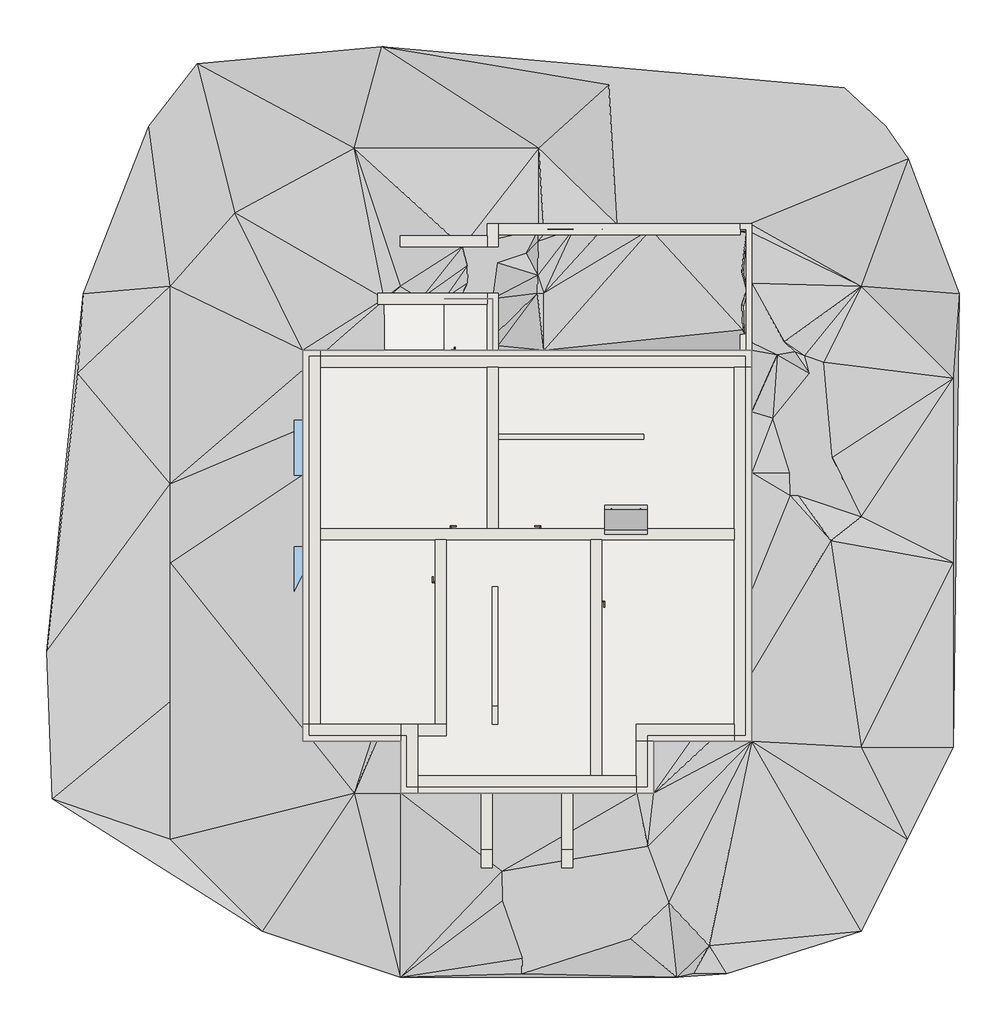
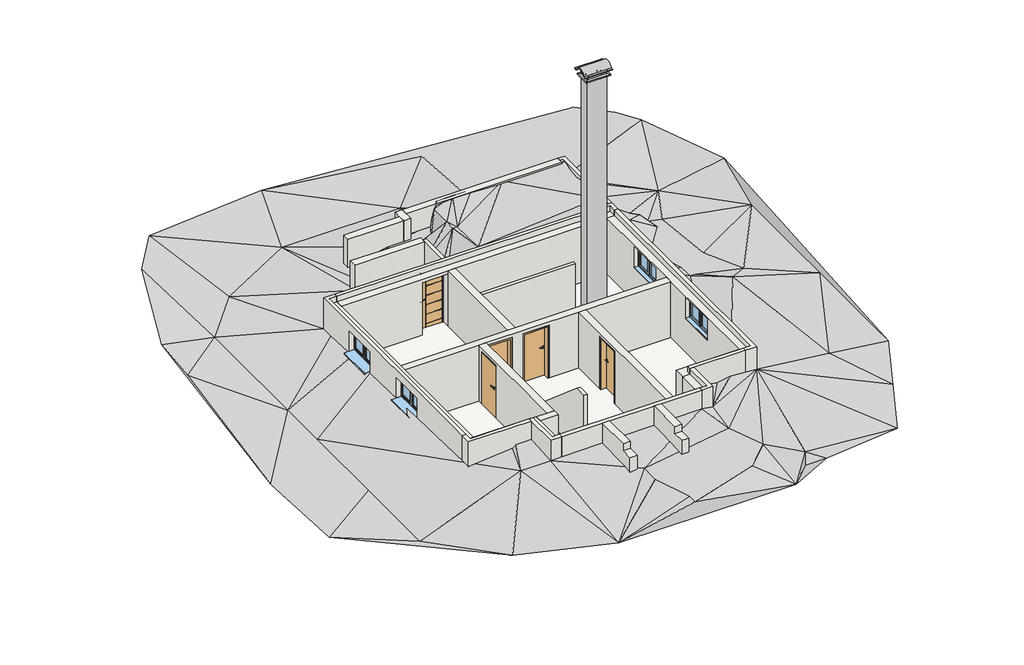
# Not in any storey, incomplete: 23 walls, 8 footings, 5 doors, 4 proxies, 4 slabs, 4 windows.
"""IFC4 building model written with IfcOpenShell, lengths in millimetres."""

from ifc_helpers import new_model, si_unit, frame, origin, place, context, project, spatial, polyline, outline, extrude, faceted_brep, triangles, transform, mapped, element, save
from components import proxy_360_x_650_x_6000_d_140_bfd82147, door_1b2f5746, door_21564633, ml_885_x_1885_5f7d4f0f, fe_2_tlg_konfigurierbar_1260_x_760_5a7c37b6

model = new_model("IFC4")

# Units and contexts
model_context = context("Model", 3, world=origin())
ifc_project = project(units=[si_unit("LENGTHUNIT", "METRE", prefix="MILLI")], contexts=[model_context])

# Site, building
site = spatial("IfcSite", under=ifc_project)
building = spatial("IfcBuilding", under=site)

# Proxies
placement = place(None, origin())
element("IfcBuildingElementProxy", 1, Name="Building Element Proxy", at=placement, inside=building, context=model_context, shape_type="Tessellation", body=[
    triangles([(-3006.145578, -3000.0000229, -246.6645224), (-6.1454637, -4000.0000305, -246.6645224), (5993.8544907, -4000.0000305, -246.6645224), (7061.4567673, -3919.3439072, 253.3354633), (9993.8551025, -3000.0000229, -246.6645224), (10993.8545288, -1000.0000076, -246.6645224), (11993.8539551, 1000.0000076, -246.6645224), (12126.3923767, 10842.9381592, 253.3354633), (11017.1356659, 13770.1420441, 253.3354633), (10524.1332001, 14478.83367, 253.3354633), (9630.5656494, 15310.7759125, 253.3354633), (-414.3653326, 16204.3434631, 253.3354633), (-4420.0127655, 15834.5916138, 253.3354633), (-5467.6435867, 14478.83367, 253.3354633), (-6885.0262573, 10842.9381592, 253.3354633), (-7686.1558456, 3078.1455437, 253.3354633), (-7562.9052292, -126.3724099, 253.3354633), (-360.00001, 10735.0005615, -17.456672), (-315.0049367, 10735.0005615, -15.2369356), (431.2891906, 10735.0005615, 52.2442811), (950.5286087, 10735.0005615, 154.1045835), (1456.3643028, 10735.0005615, 253.3354633), (1995.0000298, 10735.0005615, 253.3354633), (1995.0000298, 9900.8386871, 253.3354633), (1995.0000298, 9787.696756, 239.0034711), (1995.0000298, 9664.3624237, 244.9098511), (1995.0000298, 9635.5467407, 244.9098511), (1995.0000298, 9614.9997391, 245.4985688), (2082.8728638, 9614.9997391, 253.3354633), (3108.854425, 9614.9997391, 1000.0000076), (7614.9997238, 9614.9997391, 238.7069412), (7614.9997238, 8274.9053741, 92.4300776), (7614.9997238, 6948.7531815, 156.4684653), (7614.9997238, 4396.8633064, 68.5384173), (7614.9997238, 2612.187648, 253.3354633), (7614.9997238, 1125.0000086, 185.8592041), (6724.1721222, 1125.0000086, 253.3354633), (6285.6983047, 1125.0000086, 177.5385273), (5489.9997803, 1125.0000086, 310.2673625), (5489.9997803, 0.0, 271.5034314), (5120.6595337, 0.0, 333.1124434), (0.0, 0.0, 266.4364623), (0.0, 1125.0000086, 347.5304586), (-524.6712087, 1125.0000086, 340.6987172), (-644.7158798, 1125.0000086, 253.3354633), (-1906.1454243, 1125.0000086, 140.8354715), (-2124.9999435, 1125.0000086, 113.4786566), (-2124.9999435, 1398.5681213, 113.4786566), (-2124.9999435, 6907.6429001, -44.3694438), (-2124.9999435, 7925.8074966, -44.3694438), (-2124.9999435, 9182.0325623, -104.5292483), (-2124.9999435, 9614.9997391, -104.5292483), (-1620.3733326, 9614.9997391, -79.6345469), (-360.00001, 9614.9997391, 34.3305966), (-360.00001, 10696.3947784, -17.456672), (-1006.1454901, 0.0, 253.3354633), (9993.8551025, 1000.0000076, 0.0), (9993.8551025, 6000.0000458, 0.0), (-6.1454637, 10999.9995026, 0.0), (2993.8544678, 14000.0001068, -246.6645224), (-1006.1454901, 14000.0001068, -246.6645224), (-3596.3679817, 12597.6647736, -246.6645224), (-5006.1455933, 10999.9995026, -246.6645224), (-5006.1455933, 6710.0229858, -246.6645224), (-5006.1455933, 5000.0000381, -246.6645224), (-5006.1455933, 2000.0000153, -246.6645224), (-5006.1455933, -1000.0000076, -246.6645224), (11993.8539551, 5000.0000381, -246.6645224), (11993.8539551, 9000.0000687, -246.6645224), (9993.8551025, 10999.9995026, -246.6645224), (5993.8544907, 12999.9995178, 253.3354633), (-7008.2768738, 9117.4289474, 253.3354633), (4515.6621597, 15372.4012207, 253.3354633), (2988.8544823, 12234.9997009, 253.3354633), (7614.9997238, 12160.4635529, 253.3354633), (7631.7870712, 9774.9998566, 253.3354633), (2114.9999725, 9715.0000305, 253.3354633), (1338.8544697, 10855.0002136, 253.3354633), (1338.8544697, 11854.9996399, 253.3354633), (2988.8544823, 11975.0004547, 950.0000072), (3108.854425, 12115.0000488, 950.0000072), (7492.3263977, 12022.9533417, 950.0000072), (3108.854425, 10855.0002136, 950.0000072), (7423.7282593, 10057.5802826, 950.0000072), (7404.1846848, 10597.2531555, 950.0000072), (7495.0000717, 10924.9994293, 950.0000072), (7404.1846848, 11304.0809418, 950.0000072), (7441.4963608, 11756.530069, 950.0000072), (7495.0000717, 12160.4635529, 950.0000072), (7028.1617065, 12234.9997009, 950.0000072), (6305.688945, 12234.9997009, 950.0000072), (5429.9644913, 12234.9997009, 950.0000072), (4379.0949142, 12234.9997009, 1000.0000076), (3744.1947144, 12234.9997009, 1000.0000076), (3196.8667854, 12234.9997009, 1000.0000076), (2977.935672, 11238.4012299, 950.0000072), (2966.9892471, 10855.0002136, 950.0000072), (3098.3477989, 12355.0005157, 253.3354633), (3744.1947144, 12355.0005157, 253.3354633), (4685.5985893, 12355.0005157, 253.3354633), (5473.7507721, 12355.0005157, 253.3354633), (6535.566774, 12355.0005157, 253.3354633), (6152.4372528, 12355.0005157, 253.3354633), (7028.1617065, 12355.0005157, 253.3354633), (7586.4357697, 12355.0005157, 253.3354633), (7614.9997238, 11692.0979553, 253.3354633), (7614.9997238, 11065.0001862, 253.3354633), (7585.764299, 10444.7426971, 253.3354633), (7614.9997238, 9973.5807587, 253.3354633), (1895.1187717, 11605.1137299, 253.3354633), (1445.4177326, 11446.3850464, 253.3354633), (1456.3643028, 11074.2031128, 253.3354633), (1456.3643028, 10855.0002136, 253.3354633), (1686.9199974, 11605.992746, 253.3354633), (1968.3868286, 11433.7613983, 253.3354633), (2726.225164, 11721.4705811, 253.3354633), (2099.5658855, 11506.7139221, 253.3354633), (2190.9571095, -1694.2166451, 253.3354633), (2199.5246098, -2336.860849, 253.3354633), (2689.1108597, -3274.9166725, 253.3354633), (2636.3597191, -3586.0633781, 253.3354633), (2632.0335297, -3918.1785713, 253.3354633), (5361.3227509, -1150.202104, 253.3354633), (5815.377594, -2377.8185234, 253.3354633), (6698.8341339, -3312.1678871, 253.3354633), (6356.5811874, -3904.5529495, 253.3354633), (4998.5309418, -3156.7753372, 253.3354633), (3926.7071205, -2866.923262, 253.3354633), (3578.0281128, -2977.3252441, 253.3354633), (8642.3195755, 6453.7310715, 0.0), (8441.3254486, 6956.0079712, 0.0), (9331.5658768, 5477.8993561, 253.3354633), (9369.5280945, 7295.7924637, 0.0), (8073.9217117, 8138.425914, 0.0), (8450.8545181, 6454.1856949, 0.0), (8864.3833466, 9109.9997498, 0.0), (8170.5448837, 9512.647847, 253.3354633), (9004.4032883, 9330.2990936, 0.0), (9186.7886673, 9354.9877029, 0.0), (8327.129512, 9797.0833923, 253.3354633), (8767.2892731, 9493.1920578, 0.0), (8548.4846054, 9575.4945923, 253.3354633)], [[66, 67, 47], [1, 67, 17], [17, 66, 16], [66, 17, 67], [67, 1, 56], [47, 56, 46], [56, 47, 67], [47, 48, 66], [1, 2, 56], [66, 48, 65], [16, 65, 64], [16, 66, 65], [63, 72, 64], [64, 72, 16], [65, 49, 64], [16, 72, 15], [50, 51, 64], [64, 51, 63], [18, 52, 53], [64, 49, 50], [48, 49, 65], [63, 51, 52], [45, 46, 56], [2, 118, 42], [118, 2, 119], [45, 56, 44], [56, 42, 44], [42, 118, 41], [42, 56, 2], [121, 119, 2], [121, 122, 129], [119, 120, 129], [120, 119, 121], [129, 120, 121], [119, 129, 118], [122, 127, 129], [121, 2, 122], [2, 3, 122], [43, 44, 42], [28, 29, 27], [77, 26, 29], [77, 29, 30], [77, 30, 97], [29, 26, 27], [53, 54, 55], [83, 30, 92], [26, 77, 25], [18, 62, 52], [53, 55, 18], [18, 19, 59], [63, 15, 72], [59, 20, 79], [78, 112, 21], [20, 21, 111], [22, 113, 78], [112, 78, 113], [78, 21, 22], [20, 59, 19], [61, 18, 59], [63, 62, 14], [52, 62, 63], [13, 14, 62], [62, 61, 13], [63, 14, 15], [111, 112, 115], [111, 79, 20], [12, 61, 60], [62, 18, 61], [60, 61, 79], [61, 12, 13], [111, 114, 79], [59, 79, 61], [111, 21, 112], [113, 23, 112], [23, 24, 97], [115, 114, 111], [112, 23, 115], [23, 117, 115], [96, 23, 97], [77, 97, 24], [96, 117, 23], [96, 97, 83], [96, 94, 80], [117, 96, 116], [30, 83, 97], [24, 25, 77], [115, 117, 110], [79, 110, 74], [110, 114, 115], [110, 116, 74], [80, 116, 96], [110, 117, 116], [80, 74, 116], [74, 81, 95], [81, 74, 80], [99, 60, 98], [98, 60, 74], [95, 98, 74], [99, 98, 95], [95, 81, 94], [60, 79, 74], [81, 80, 94], [79, 114, 110], [94, 96, 83], [113, 22, 23], [12, 60, 73], [128, 118, 129], [128, 127, 123], [128, 129, 127], [123, 36, 40], [124, 123, 127], [127, 3, 124], [123, 41, 118], [3, 4, 126], [126, 125, 3], [125, 126, 4], [124, 125, 36], [3, 125, 124], [122, 3, 127], [124, 36, 123], [40, 41, 123], [38, 39, 40], [40, 37, 38], [32, 33, 134], [34, 135, 33], [34, 35, 132], [37, 40, 36], [5, 125, 4], [34, 132, 135], [58, 132, 68], [130, 58, 133], [58, 130, 132], [35, 57, 132], [135, 132, 130], [6, 57, 36], [57, 7, 68], [7, 57, 6], [69, 68, 8], [57, 68, 132], [6, 36, 5], [36, 125, 5], [58, 68, 69], [133, 134, 131], [131, 134, 33], [134, 137, 32], [134, 136, 137], [135, 130, 131], [33, 135, 131], [133, 69, 139], [131, 130, 133], [136, 139, 138], [139, 136, 133], [138, 139, 141], [136, 138, 141], [139, 70, 141], [133, 136, 134], [58, 69, 133], [70, 139, 69], [68, 7, 8], [36, 57, 35], [142, 136, 141], [99, 94, 93], [83, 93, 94], [100, 93, 92], [91, 92, 85], [83, 92, 93], [103, 92, 91], [86, 87, 85], [84, 85, 92], [88, 106, 82], [87, 106, 88], [90, 87, 88], [91, 87, 90], [85, 84, 108], [85, 87, 91], [30, 84, 92], [90, 88, 82], [100, 73, 60], [99, 93, 100], [71, 100, 101], [100, 71, 73], [92, 101, 100], [100, 60, 99], [91, 102, 103], [103, 101, 92], [71, 102, 104], [102, 71, 103], [104, 102, 90], [73, 71, 11], [104, 90, 89], [103, 71, 101], [91, 90, 102], [104, 105, 71], [89, 90, 82], [94, 99, 95], [108, 84, 109], [84, 76, 109], [107, 86, 108], [86, 85, 108], [109, 140, 108], [84, 31, 76], [137, 142, 140], [142, 137, 136], [107, 108, 140], [140, 76, 137], [141, 140, 142], [140, 109, 76], [69, 8, 70], [137, 76, 31], [31, 32, 137], [140, 141, 70], [82, 106, 75], [106, 107, 70], [89, 105, 104], [75, 105, 89], [82, 75, 89], [87, 107, 106], [70, 9, 105], [70, 75, 106], [10, 11, 105], [105, 9, 10], [70, 8, 9], [75, 70, 105], [107, 140, 70], [105, 11, 71], [87, 86, 107], [31, 84, 30], [73, 11, 12], [118, 128, 123]], closed=False),
])
element("IfcBuildingElementProxy", 2, Name="Building Element Proxy", at=placement, inside=building, context=model_context, shape_type="Tessellation", body=[
    triangles([(950.5286087, 9614.9997391, -1201.1595314), (950.5286087, 9614.9997391, -947.8240499), (1878.0215595, 9614.9997391, -1201.1595314), (1878.0215595, 9614.9997391, -947.8240499), (1963.9683483, 9614.9997391, -1201.1595314), (1963.9683483, 9614.9997391, -947.8240499), (1995.0000298, 9614.9997391, -1201.1595314), (1995.0000298, 9614.9997391, -947.8240499)], [[1, 4, 2], [1, 3, 4], [3, 6, 4], [3, 5, 6], [5, 8, 6], [5, 7, 8]], closed=False),
    triangles([(1995.0000298, 9614.9997391, -1201.1595314), (1995.0000298, 9614.9997391, 245.4985688), (2082.8728638, 9614.9997391, -1201.1595314), (2082.8728638, 9614.9997391, 253.3354633), (3108.854425, 9614.9997391, -1201.1595314), (3108.854425, 9614.9997391, 1000.0000076), (7614.9997238, 9614.9997391, -1201.1595314), (7614.9997238, 9614.9997391, 238.7069412), (7614.9997238, 8274.9053741, -1201.1595314), (7614.9997238, 8274.9053741, 92.4300776), (7614.9997238, 6948.7531815, -1201.1595314), (7614.9997238, 6948.7531815, 156.4684653), (7614.9997238, 4396.8633064, -1201.1595314), (7614.9997238, 4396.8633064, 68.5384173), (7614.9997238, 2612.187648, -1201.1595314), (7614.9997238, 2612.187648, 253.3354633), (7614.9997238, 1125.0000086, -1201.1595314), (7614.9997238, 1125.0000086, 185.8592041), (6724.1721222, 1125.0000086, -1201.1595314), (6724.1721222, 1125.0000086, 253.3354633), (6285.6983047, 1125.0000086, -1201.1595314), (6285.6983047, 1125.0000086, 177.5385273), (5489.9997803, 1125.0000086, -1201.1595314), (5489.9997803, 1125.0000086, 310.2673625), (5489.9997803, 0.0, -1201.1595314), (5489.9997803, 0.0, 271.5034314), (5120.6595337, 0.0, -1201.1595314), (5120.6595337, 0.0, 333.1124434), (0.0, 0.0, -1201.1595314), (0.0, 0.0, 266.4364623), (0.0, 1125.0000086, -1201.1595314), (0.0, 1125.0000086, 347.5304586), (-524.6712087, 1125.0000086, -1201.1595314), (-524.6712087, 1125.0000086, 340.6987172), (-644.7158798, 1125.0000086, -1201.1595314), (-644.7158798, 1125.0000086, 253.3354633), (-1906.1454243, 1125.0000086, -1201.1595314), (-1906.1454243, 1125.0000086, 140.8354715), (-2124.9999435, 1125.0000086, -1201.1595314), (-2124.9999435, 1125.0000086, 113.4786566), (-2124.9999435, 1398.5681213, -1201.1595314), (-2124.9999435, 1398.5681213, 113.4786566), (-2124.9999435, 6907.6429001, -1201.1595314), (-2124.9999435, 6907.6429001, -44.3694438), (-2124.9999435, 7925.8074966, -1201.1595314), (-2124.9999435, 7925.8074966, -44.3694438), (-2124.9999435, 9182.0325623, -1201.1595314), (-2124.9999435, 9182.0325623, -104.5292483), (-2124.9999435, 9614.9997391, -1201.1595314), (-2124.9999435, 9614.9997391, -104.5292483), (-1620.3733326, 9614.9997391, -1201.1595314), (-1620.3733326, 9614.9997391, -79.6345469), (-360.00001, 9614.9997391, -1201.1595314), (-360.00001, 9614.9997391, 34.3305966)], [[1, 4, 2], [1, 3, 4], [3, 6, 4], [3, 5, 6], [5, 8, 6], [5, 7, 8], [7, 10, 8], [7, 9, 10], [9, 12, 10], [9, 11, 12], [11, 14, 12], [11, 13, 14], [13, 16, 14], [13, 15, 16], [15, 18, 16], [15, 17, 18], [17, 20, 18], [17, 19, 20], [19, 22, 20], [19, 21, 22], [21, 24, 22], [21, 23, 24], [23, 26, 24], [23, 25, 26], [25, 28, 26], [25, 27, 28], [27, 30, 28], [27, 29, 30], [29, 32, 30], [29, 31, 32], [31, 34, 32], [31, 33, 34], [33, 36, 34], [33, 35, 36], [35, 38, 36], [35, 37, 38], [37, 40, 38], [37, 39, 40], [39, 42, 40], [39, 41, 42], [41, 44, 42], [41, 43, 44], [43, 46, 44], [43, 45, 46], [45, 48, 46], [45, 47, 48], [47, 50, 48], [47, 49, 50], [49, 52, 50], [49, 51, 52], [51, 54, 52], [51, 53, 54]], closed=False),
    triangles([(7614.9997238, 9614.9997391, -1201.1595314), (-2124.9999435, 9614.9997391, -1201.1595314), (-2124.9999435, 1125.0000086, -1201.1595314), (0.0, 1125.0000086, -1201.1595314), (0.0, 0.0, -1201.1595314), (5489.9997803, 0.0, -1201.1595314), (5489.9997803, 1125.0000086, -1201.1595314), (7614.9997238, 1125.0000086, -1201.1595314)], [[2, 4, 1], [4, 2, 3], [5, 7, 4], [7, 1, 4], [1, 7, 8], [6, 7, 5]], closed=False),
])
element("IfcBuildingElementProxy", 3, Name="Building Element Proxy", at=placement, inside=building, context=model_context, shape_type="Tessellation", body=[
    triangles([(950.5286087, 10735.0005615, -947.8240499), (950.5286087, 10735.0005615, 154.1045835), (1456.3643028, 10735.0005615, -947.8240499), (1456.3643028, 10735.0005615, 253.3354633), (1995.0000298, 10735.0005615, -947.8240499), (1995.0000298, 10735.0005615, 253.3354633), (1995.0000298, 9900.8386871, -947.8240499), (1995.0000298, 9900.8386871, 253.3354633), (1995.0000298, 9787.696756, -947.8240499), (1995.0000298, 9787.696756, 239.0034711), (1995.0000298, 9664.3624237, -947.8240499), (1995.0000298, 9664.3624237, 244.9098511), (1995.0000298, 9635.5467407, -947.8240499), (1995.0000298, 9635.5467407, 244.9098511), (1995.0000298, 9614.9997391, -947.8240499), (1995.0000298, 9614.9997391, 245.4985688)], [[1, 4, 2], [1, 3, 4], [3, 6, 4], [3, 5, 6], [5, 8, 6], [5, 7, 8], [7, 10, 8], [7, 9, 10], [9, 12, 10], [9, 11, 12], [11, 14, 12], [11, 13, 14], [13, 16, 14], [13, 15, 16]], closed=False),
    triangles([(950.5286087, 10735.0005615, -947.8240499), (950.5286087, 9614.9997391, -947.8240499), (1995.0000298, 9614.9997391, -947.8240499), (1995.0000298, 10735.0005615, -947.8240499)], [[1, 2, 4], [3, 4, 2]], closed=False),
])
proxy_360_x_650_x_6000_d_140_shape = proxy_360_x_650_x_6000_d_140_bfd82147(model_context)
element("IfcBuildingElementProxy", 4, Name="Kamin-03 zweizügig : 360 x 650 x 6000 D 140", ObjectType="Kamin-03 zweizügig : 360 x 650 x 6000 D 140", at=placement, inside=building, context=model_context, shape_type="MappedRepresentation", body=[
    mapped(proxy_360_x_650_x_6000_d_140_shape, transform((4890.0, 5931.2341615, -1200.0), x_axis=(1.0, 0.0, 0.0), y_axis=(0.0, 1.0, 0.0), z_axis=(0.0, 0.0, 1.0))),
])

# Doors
door_shape = door_1b2f5746(model_context)
element("IfcDoor", 5, ObjectType="TU DF 1 - Rahmenstock flächenbündig variabel : ML - H - 885 x 1885", at=placement, inside=building, context=model_context, shape_type="MappedRepresentation", body=[
    mapped(door_shape, transform((2682.5, 5620.0, -1200.0), x_axis=(-1.0, 0.0, 0.0), y_axis=(0.0, -1.0, 0.0), z_axis=(0.0, 0.0, 1.0))),
])
door_2_shape = door_21564633(model_context)
element("IfcDoor", 6, ObjectType="TU DF 1 - Rahmenstock flächenbündig variabel : ML - H - 885 x 1885", at=placement, inside=building, context=model_context, shape_type="MappedRepresentation", body=[
    mapped(door_2_shape, transform((4245.0, 3817.5, -1200.0), x_axis=(0.0, -1.0, 0.0), y_axis=(1.0, 0.0, 0.0), z_axis=(0.0, 0.0, 1.0))),
])
element("IfcDoor", 7, ObjectType="TU DF 1 - Rahmenstock flächenbündig variabel : ML - H - 885 x 1885", at=placement, inside=building, context=model_context, shape_type="MappedRepresentation", body=[
    mapped(door_2_shape, transform((870.0, 4922.5, -1200.0), x_axis=(0.0, 1.0, 0.0), y_axis=(-1.0, 0.0, 0.0), z_axis=(0.0, 0.0, 1.0))),
])
element("IfcDoor", 8, ObjectType="TU DF 1 - Rahmenstock flächenbündig variabel : ML - H - 885 x 1885", at=placement, inside=building, context=model_context, shape_type="MappedRepresentation", body=[
    mapped(door_2_shape, transform((1432.5, 5620.0, -1200.0), x_axis=(1.0, 0.0, 0.0), y_axis=(0.0, 1.0, 0.0), z_axis=(0.0, 0.0, 1.0))),
])
ml_885_x_1885_shape = ml_885_x_1885_5f7d4f0f(model_context)
element("IfcDoor", 9, ObjectType="TU DF 1 - Haustüre : ML - 885 x 1885", at=placement, inside=building, context=model_context, shape_type="MappedRepresentation", body=[
    mapped(ml_885_x_1885_shape, transform((1432.5, 9427.5, -1200.0), x_axis=(-1.0, 0.0, 0.0), y_axis=(0.0, -1.0, 0.0), z_axis=(0.0, 0.0, 1.0))),
])

# Footings
element("IfcFooting", 10, ObjectType="STB 440 x 300", at=placement, inside=building, context=model_context, shape_type="Brep", body=[
    faceted_brep([(7715.0, 9615.0, -1200.0), (7275.0, 9615.0, -1200.0), (7275.0, 9615.0, -1500.0), (7715.0, 9615.0, -1500.0), (7715.0, 12455.0, -1200.0), (7275.0, 12455.0, -1200.0), (7275.0, 12015.0, -1200.0), (7275.0, 12455.0, -1500.0), (7275.0, 12015.0, -1500.0), (7715.0, 12455.0, -1500.0)], [[[0, 1, 2, 3]], [[0, 4, 5, 6, 1]], [[2, 1, 6, 5, 7, 8]], [[3, 2, 8, 7, 9]], [[0, 3, 9, 4]], [[5, 4, 9, 7]]]),
])
element("IfcFooting", 11, ObjectType="STB 440 x 300", at=placement, inside=building, context=model_context, shape_type="Brep", body=[
    faceted_brep([(2215.0, 9615.0, -1200.0), (1775.0, 9615.0, -1200.0), (1775.0, 9615.0, -1500.0), (2215.0, 9615.0, -1500.0), (2215.0, 10955.0, -1200.0), (1775.0, 10955.0, -1200.0), (1775.0, 10515.0, -1200.0), (1775.0, 10955.0, -1500.0), (1775.0, 10515.0, -1500.0), (2215.0, 10955.0, -1500.0)], [[[0, 1, 2, 3]], [[0, 4, 5, 6, 1]], [[2, 1, 6, 5, 7, 8]], [[3, 2, 8, 7, 9]], [[0, 3, 9, 4]], [[5, 4, 9, 7]]]),
])
element("IfcFooting", 12, ObjectType="STB 440 x 300", at=placement, inside=building, context=model_context, shape_type="SweptSolid", body=[
    extrude(outline(polyline([(-500.0, 10515.0), (-500.0, 10955.0), (1775.0, 10955.0), (1775.0, 10515.0), (-500.0, 10515.0)])), frame((0.0, 0.0, -1500.0), z_axis=(0.0, 0.0, 1.0), x_axis=(1.0, 0.0, 0.0)), (0.0, 0.0, 1.0), 300.0),
])
element("IfcFooting", 13, ObjectType="STB 440 x 300", at=placement, inside=building, context=model_context, shape_type="SweptSolid", body=[
    extrude(outline(polyline([(1650.0, 0.0), (2090.0, 0.0), (2090.0, -1620.0), (1650.0, -1620.0), (1650.0, 0.0)])), frame((0.0, 0.0, -800.0), z_axis=(0.0, 0.0, 1.0), x_axis=(1.0, 0.0, 0.0)), (0.0, 0.0, 1.0), 300.0),
])
element("IfcFooting", 14, ObjectType="STB 440 x 300", at=placement, inside=building, context=model_context, shape_type="Brep", body=[
    faceted_brep([(1775.0, 12455.0, -1200.0), (1775.0, 12195.0, -1200.0), (1775.0, 11755.0, -1200.0), (2215.0, 11755.0, -1200.0), (2215.0, 12015.0, -1200.0), (2215.0, 12455.0, -1200.0), (2215.0, 12455.0, -1500.0), (2215.0, 11755.0, -1500.0), (2215.0, 12015.0, -1500.0), (1775.0, 12455.0, -1500.0), (1775.0, 11755.0, -1500.0), (1775.0, 12195.0, -1500.0)], [[[0, 1, 2, 3, 4, 5]], [[6, 5, 4, 3, 7, 8]], [[9, 6, 8, 7, 10, 11]], [[0, 9, 11, 10, 2, 1]], [[3, 2, 10, 7]], [[0, 5, 6, 9]]]),
])
element("IfcFooting", 15, ObjectType="STB 440 x 300", at=placement, inside=building, context=model_context, shape_type="SweptSolid", body=[
    extrude(outline(polyline([(-5.0, 11755.0), (-5.0, 12195.0), (1775.0, 12195.0), (1775.0, 11755.0), (-5.0, 11755.0)])), frame((0.0, 0.0, -1500.0), z_axis=(0.0, 0.0, 1.0), x_axis=(1.0, 0.0, 0.0)), (0.0, 0.0, 1.0), 300.0),
])
element("IfcFooting", 16, ObjectType="STB 440 x 300", at=placement, inside=building, context=model_context, shape_type="SweptSolid", body=[
    extrude(outline(polyline([(7275.0, 12455.0), (7275.0, 12015.0), (2215.0, 12015.0), (2215.0, 12455.0), (7275.0, 12455.0)])), frame((0.0, 0.0, -1500.0), z_axis=(0.0, 0.0, 1.0), x_axis=(1.0, 0.0, 0.0)), (0.0, 0.0, 1.0), 300.0),
])
element("IfcFooting", 17, ObjectType="STB 440 x 300", at=placement, inside=building, context=model_context, shape_type="SweptSolid", body=[
    extrude(outline(polyline([(3400.0, 0.0), (3840.0, 0.0), (3840.0, -1620.0), (3400.0, -1620.0), (3400.0, 0.0)])), frame((0.0, 0.0, -800.0), z_axis=(0.0, 0.0, 1.0), x_axis=(1.0, 0.0, 0.0)), (0.0, 0.0, 1.0), 300.0),
])

# Slabs
element("IfcSlab", 18, ObjectType="STB 300", at=placement, inside=building, context=model_context, shape_type="Brep", body=[
    faceted_brep([(-2225.0, 9715.0, -1500.0), (915.0, 9715.0, -1500.0), (915.0, 10615.0, -1500.0), (1875.0, 10615.0, -1500.0), (1875.0, 9715.0, -1500.0), (7715.0, 9715.0, -1500.0), (7715.0, 1025.0, -1500.0), (5590.0, 1025.0, -1500.0), (5590.0, -100.0, -1500.0), (-100.0, -100.0, -1500.0), (-100.0, 1025.0, -1500.0), (-2225.0, 1025.0, -1500.0), (-2225.0, 9715.0, -1200.0), (915.0, 9715.0, -1200.0), (7715.0, 9715.0, -1200.0), (7715.0, 1025.0, -1200.0), (5590.0, 1025.0, -1200.0), (5590.0, -100.0, -1200.0), (-100.0, -100.0, -1200.0), (-100.0, 1025.0, -1200.0), (-2225.0, 1025.0, -1200.0), (1875.0, 9715.0, -1200.0), (1875.0, 10615.0, -1200.0), (915.0, 10615.0, -1200.0), (7250.0, 5500.0, -1200.0), (7250.0, 1490.0, -1200.0), (4365.0, 1490.0, -1200.0), (4365.0, 5500.0, -1200.0), (5807.5, 3495.0, -1260.0)], [[[0, 1, 2, 3, 4, 5, 6, 7, 8, 9, 10, 11]], [[1, 0, 12, 13]], [[6, 5, 14, 15]], [[7, 6, 15, 16]], [[8, 7, 16, 17]], [[9, 8, 17, 18]], [[10, 9, 18, 19]], [[11, 10, 19, 20]], [[0, 11, 20, 12]], [[20, 19, 18, 17, 16, 15, 14, 21, 22, 23, 13, 12], [24, 25, 26, 27]], [[26, 25, 28]], [[26, 28, 27]], [[25, 24, 28]], [[24, 27, 28]], [[2, 1, 13, 23]], [[3, 2, 23, 22]], [[4, 3, 22, 21]], [[5, 4, 21, 14]]]),
])
element("IfcSlab", 19, ObjectType="Sohle 1 mm", at=placement, inside=building, context=model_context, shape_type="SweptSolid", body=[
    extrude(outline(polyline([(7615.0, 9615.0), (7615.0, 1125.0), (5490.0, 1125.0), (5490.0, 0.0), (0.0, 0.0), (0.0, 1125.0), (-2125.0, 1125.0), (-2125.0, 9615.0), (7615.0, 9615.0)])), frame((0.0, 0.0, -1201.0), z_axis=(0.0, 0.0, 1.0), x_axis=(1.0, 0.0, 0.0)), (0.0, 0.0, 1.0), 1.0),
])
element("IfcSlab", 20, ObjectType="Sohle 1 mm", at=placement, inside=building, context=model_context, shape_type="SweptSolid", body=[
    extrude(outline(polyline([(950.5286031, 10735.0), (1995.0, 10735.0), (1995.0, 9615.0), (950.5286031, 9615.0), (950.5286031, 10735.0)])), frame((0.0, 0.0, -947.66453), z_axis=(0.0, 0.0, 1.0), x_axis=(1.0, 0.0, 0.0)), (0.0, 0.0, 1.0), 1.0),
])
element("IfcSlab", 21, ObjectType="Sohle 1 mm", at=placement, inside=building, context=model_context, shape_type="SweptSolid", body=[
    extrude(outline(polyline([(-1.3558891, -360.0), (-1201.3558891, 950.5286031), (-1200.0, 950.5286031), (0.0, -360.0), (-1.3558891, -360.0)])), frame((0.0, 9615.0, 0.0), z_axis=(0.0, 1.0, 0.0), x_axis=(0.0, 0.0, 1.0)), (0.0, 0.0, 1.0), 1120.0),
])

# Walls
element("IfcWall", 22, ObjectType="Klinker 365", at=placement, inside=building, context=model_context, shape_type="Brep", body=[
    faceted_brep([(375.0, 0.0, -1200.0), (375.0, 375.0, -1200.0), (375.0, 1250.0, -1200.0), (375.0, 1490.0, -1200.0), (375.0, 1500.0, -1200.0), (375.0, 1500.0, 800.0), (375.0, 1490.0, 800.0), (375.0, 1250.0, 800.0), (375.0, 375.0, 800.0), (375.0, 125.0, 800.0), (375.0, 125.0, 1000.0), (375.0, 0.0, 1000.0), (0.0, 1500.0, -1200.0), (0.0, 1125.0, -1200.0), (0.0, 0.0, -1200.0), (0.0, 0.0, 1000.0), (0.0, 1125.0, 1000.0), (0.0, 1250.0, 1000.0), (0.0, 1250.0, 800.0), (0.0, 1500.0, 800.0), (125.0, 125.0, 1000.0), (125.0, 1250.0, 1000.0), (125.0, 1250.0, 800.0), (125.0, 125.0, 800.0)], [[[0, 1, 2, 3, 4, 5, 6, 7, 8, 9, 10, 11]], [[12, 13, 14, 15, 16, 17, 18, 19]], [[4, 3, 2, 1, 0, 14, 13, 12]], [[15, 11, 10, 20, 21, 17, 16]], [[0, 11, 15, 14]], [[4, 12, 19, 5]], [[22, 23, 9, 8, 7, 6, 5, 19, 18]], [[23, 20, 10, 9]], [[23, 22, 21, 20]], [[21, 22, 18, 17]]]),
])
element("IfcWall", 23, ObjectType="Klinker 365", at=placement, inside=building, context=model_context, shape_type="Brep", body=[
    faceted_brep([(0.0, 1500.0, -1200.0), (-1750.0, 1500.0, -1200.0), (-2125.0, 1500.0, -1200.0), (-2125.0, 1500.0, 1000.0), (-2000.0, 1500.0, 1000.0), (-2000.0, 1500.0, 800.0), (-1750.0, 1500.0, 800.0), (0.0, 1500.0, 800.0), (-2125.0, 1125.0, -1200.0), (0.0, 1125.0, -1200.0), (0.0, 1125.0, 1000.0), (-2125.0, 1125.0, 1000.0), (0.0, 1250.0, 1000.0), (-2000.0, 1250.0, 1000.0), (0.0, 1250.0, 800.0), (-2000.0, 1250.0, 800.0)], [[[0, 1, 2, 3, 4, 5, 6, 7]], [[8, 9, 10, 11]], [[2, 1, 0, 9, 8]], [[11, 10, 12, 13, 4, 3]], [[3, 2, 8, 11]], [[9, 0, 7, 14, 12, 10]], [[5, 15, 14, 7, 6]], [[15, 13, 12, 14]], [[13, 15, 5, 4]]]),
])
element("IfcWall", 24, ObjectType="Klinker 365", at=placement, inside=building, context=model_context, shape_type="Brep", body=[
    faceted_brep([(-1750.0, 1500.0, -1200.0), (-1750.0, 5500.0, -1200.0), (-1750.0, 5740.0, -1200.0), (-1750.0, 9240.0, -1200.0), (-1750.0, 9615.0, -1200.0), (-1750.0, 9615.0, 1000.0), (-1750.0, 9490.0, 1000.0), (-1750.0, 9490.0, 800.0), (-1750.0, 9240.0, 800.0), (-1750.0, 5740.0, 800.0), (-1750.0, 5500.0, 800.0), (-1750.0, 1500.0, 800.0), (-1750.0, 4115.0, 760.0), (-1750.0, 5375.0, 760.0), (-1750.0, 5375.0, 0.0), (-1750.0, 4115.0, 0.0), (-1750.0, 6865.0, 760.0), (-1750.0, 8125.0, 760.0), (-1750.0, 8125.0, 0.0), (-1750.0, 6865.0, 0.0), (-2125.0, 9615.0, -1200.0), (-2125.0, 1500.0, -1200.0), (-2125.0, 1500.0, 1000.0), (-2125.0, 9615.0, 1000.0), (-2125.0, 5345.0, 15.0), (-2125.0, 5345.0, 730.0), (-2125.0, 4145.0, 730.0), (-2125.0, 4145.0, 15.0), (-2125.0, 8095.0, 15.0), (-2125.0, 8095.0, 730.0), (-2125.0, 6895.0, 730.0), (-2125.0, 6895.0, 15.0), (-2000.0, 1500.0, 1000.0), (-2000.0, 9490.0, 1000.0), (-2000.0, 1500.0, 800.0), (-1965.0, 4115.0, 760.0), (-1965.0, 5375.0, 760.0), (-1965.0, 4115.0, 0.0), (-1965.0, 5375.0, 0.0), (-1965.0, 5345.0, 730.0), (-1965.0, 5345.0, 20.0), (-1965.0, 4145.0, 20.0), (-1965.0, 4145.0, 730.0), (-2000.0, 9490.0, 800.0), (-1965.0, 8125.0, 760.0), (-1965.0, 6865.0, 760.0), (-1965.0, 6865.0, 0.0), (-1965.0, 8125.0, 0.0), (-1965.0, 8095.0, 730.0), (-1965.0, 8095.0, 20.0), (-1965.0, 6895.0, 20.0), (-1965.0, 6895.0, 730.0)], [[[0, 1, 2, 3, 4, 5, 6, 7, 8, 9, 10, 11], [12, 13, 14, 15], [16, 17, 18, 19]], [[20, 21, 22, 23], [24, 25, 26, 27], [28, 29, 30, 31]], [[4, 3, 2, 1, 0, 21, 20]], [[23, 22, 32, 33, 6, 5]], [[22, 21, 0, 11, 34, 32]], [[5, 4, 20, 23]], [[35, 36, 13, 12]], [[37, 15, 14, 38]], [[35, 12, 15, 37]], [[13, 36, 38, 14]], [[36, 35, 37, 38], [39, 40, 41, 42]], [[40, 39, 25, 24]], [[41, 40, 24, 27]], [[42, 41, 27, 26]], [[39, 42, 26, 25]], [[43, 34, 11, 10, 9, 8, 7]], [[33, 43, 7, 6]], [[43, 33, 32, 34]], [[44, 17, 16, 45]], [[46, 19, 18, 47]], [[45, 16, 19, 46]], [[17, 44, 47, 18]], [[44, 45, 46, 47], [48, 49, 50, 51]], [[49, 48, 29, 28]], [[50, 49, 28, 31]], [[51, 50, 31, 30]], [[48, 51, 30, 29]]]),
])
element("IfcWall", 25, ObjectType="Klinker 365", at=placement, inside=building, context=model_context, shape_type="Brep", body=[
    faceted_brep([(7615.0, 9240.0, -1200.0), (7615.0, 9240.0, 1000.0), (7490.0, 9240.0, 1000.0), (7490.0, 9240.0, 800.0), (7240.0, 9240.0, 800.0), (2115.0, 9240.0, 800.0), (1875.0, 9240.0, 800.0), (-1750.0, 9240.0, 800.0), (-1750.0, 9240.0, -1200.0), (990.0, 9240.0, -1200.0), (990.0, 9240.0, 685.0), (1875.0, 9240.0, 685.0), (1875.0, 9240.0, -1200.0), (2115.0, 9240.0, -1200.0), (7240.0, 9240.0, -1200.0), (-1750.0, 9615.0, 1000.0), (7615.0, 9615.0, 1000.0), (7615.0, 9615.0, -1200.0), (1875.0, 9615.0, -1200.0), (1875.0, 9615.0, 685.0), (990.0, 9615.0, 685.0), (990.0, 9615.0, -1200.0), (-1750.0, 9615.0, -1200.0), (-1750.0, 9490.0, 1000.0), (7490.0, 9490.0, 1000.0), (-1750.0, 9490.0, 800.0), (7490.0, 9490.0, 800.0)], [[[0, 1, 2, 3, 4, 5, 6, 7, 8, 9, 10, 11, 12, 13, 14]], [[15, 16, 17, 18, 19, 20, 21, 22]], [[8, 22, 21, 9]], [[17, 0, 14, 13, 12, 18]], [[16, 15, 23, 24, 2, 1]], [[15, 22, 8, 7, 25, 23]], [[1, 0, 17, 16]], [[3, 26, 25, 7, 6, 5, 4]], [[26, 24, 23, 25]], [[24, 26, 3, 2]], [[19, 11, 10, 20]], [[20, 10, 9, 21]], [[11, 19, 18, 12]]]),
])
element("IfcWall", 26, ObjectType="Klinker 365", at=placement, inside=building, context=model_context, shape_type="Brep", body=[
    faceted_brep([(7240.0, 9240.0, -1200.0), (7240.0, 5740.0, -1200.0), (7240.0, 5500.0, -1200.0), (7240.0, 1500.0, -1200.0), (7240.0, 1125.0, -1200.0), (7240.0, 1125.0, 1000.0), (7240.0, 1250.0, 1000.0), (7240.0, 1250.0, 800.0), (7240.0, 1500.0, 800.0), (7240.0, 5500.0, 800.0), (7240.0, 5740.0, 800.0), (7240.0, 9240.0, 800.0), (7240.0, 4625.0, 760.0), (7240.0, 3365.0, 760.0), (7240.0, 3365.0, 0.0), (7240.0, 4625.0, 0.0), (7240.0, 7625.0, 760.0), (7240.0, 6365.0, 760.0), (7240.0, 6365.0, 0.0), (7240.0, 7625.0, 0.0), (7615.0, 1125.0, -1200.0), (7615.0, 9240.0, -1200.0), (7615.0, 9240.0, 1000.0), (7615.0, 1125.0, 1000.0), (7615.0, 3395.0, 15.0), (7615.0, 3395.0, 730.0), (7615.0, 4595.0, 730.0), (7615.0, 4595.0, 15.0), (7615.0, 6395.0, 15.0), (7615.0, 6395.0, 730.0), (7615.0, 7595.0, 730.0), (7615.0, 7595.0, 15.0), (7490.0, 9240.0, 800.0), (7490.0, 9240.0, 1000.0), (7455.0, 4625.0, 760.0), (7455.0, 3365.0, 760.0), (7455.0, 4625.0, 0.0), (7455.0, 3365.0, 0.0), (7455.0, 3395.0, 730.0), (7455.0, 3395.0, 20.0), (7455.0, 4595.0, 20.0), (7455.0, 4595.0, 730.0), (7490.0, 1250.0, 800.0), (7490.0, 1250.0, 1000.0), (7455.0, 6365.0, 760.0), (7455.0, 7625.0, 760.0), (7455.0, 7625.0, 0.0), (7455.0, 6365.0, 0.0), (7455.0, 6395.0, 730.0), (7455.0, 6395.0, 20.0), (7455.0, 7595.0, 20.0), (7455.0, 7595.0, 730.0)], [[[0, 1, 2, 3, 4, 5, 6, 7, 8, 9, 10, 11], [12, 13, 14, 15], [16, 17, 18, 19]], [[20, 21, 22, 23], [24, 25, 26, 27], [28, 29, 30, 31]], [[22, 21, 0, 11, 32, 33]], [[5, 4, 20, 23]], [[34, 35, 13, 12]], [[36, 15, 14, 37]], [[34, 12, 15, 36]], [[13, 35, 37, 14]], [[35, 34, 36, 37], [38, 39, 40, 41]], [[39, 38, 25, 24]], [[40, 39, 24, 27]], [[41, 40, 27, 26]], [[38, 41, 26, 25]], [[7, 42, 32, 11, 10, 9, 8]], [[42, 43, 33, 32]], [[43, 42, 7, 6]], [[44, 17, 16, 45]], [[46, 19, 18, 47]], [[45, 16, 19, 46]], [[17, 44, 47, 18]], [[44, 45, 46, 47], [48, 49, 50, 51]], [[49, 48, 29, 28]], [[50, 49, 28, 31]], [[51, 50, 31, 30]], [[48, 51, 30, 29]], [[4, 3, 2, 1, 0, 21, 20]], [[23, 22, 33, 43, 6, 5]]]),
])
element("IfcWall", 27, ObjectType="Klinker 365", at=placement, inside=building, context=model_context, shape_type="Brep", body=[
    faceted_brep([(7240.0, 1500.0, -1200.0), (5115.0, 1500.0, -1200.0), (5115.0, 1500.0, 800.0), (7240.0, 1500.0, 800.0), (5115.0, 1125.0, -1200.0), (5490.0, 1125.0, -1200.0), (7240.0, 1125.0, -1200.0), (7240.0, 1125.0, 1000.0), (5490.0, 1125.0, 1000.0), (5365.0, 1125.0, 1000.0), (5365.0, 1125.0, 800.0), (5115.0, 1125.0, 800.0), (7240.0, 1250.0, 1000.0), (5365.0, 1250.0, 1000.0), (7240.0, 1250.0, 800.0), (5365.0, 1250.0, 800.0)], [[[0, 1, 2, 3]], [[4, 5, 6, 7, 8, 9, 10, 11]], [[1, 0, 6, 5, 4]], [[9, 8, 7, 12, 13]], [[7, 6, 0, 3, 14, 12]], [[1, 4, 11, 2]], [[10, 15, 14, 3, 2, 11]], [[15, 13, 12, 14]], [[13, 15, 10, 9]]]),
])
element("IfcWall", 28, ObjectType="Klinker 365", at=placement, inside=building, context=model_context, shape_type="Brep", body=[
    faceted_brep([(5115.0, 1125.0, -1200.0), (5115.0, 375.0, -1200.0), (5115.0, 0.0, -1200.0), (5115.0, 0.0, 1000.0), (5115.0, 125.0, 1000.0), (5115.0, 125.0, 800.0), (5115.0, 375.0, 800.0), (5115.0, 1125.0, 800.0), (5490.0, 0.0, -1200.0), (5490.0, 1125.0, -1200.0), (5490.0, 1125.0, 1000.0), (5490.0, 0.0, 1000.0), (5365.0, 1125.0, 1000.0), (5365.0, 125.0, 1000.0), (5365.0, 1125.0, 800.0), (5365.0, 125.0, 800.0)], [[[0, 1, 2, 3, 4, 5, 6, 7]], [[8, 9, 10, 11]], [[2, 1, 0, 9, 8]], [[11, 10, 12, 13, 4, 3]], [[10, 9, 0, 7, 14, 12]], [[3, 2, 8, 11]], [[5, 15, 14, 7, 6]], [[15, 13, 12, 14]], [[13, 15, 5, 4]]]),
])
element("IfcWall", 29, ObjectType="Klinker 365", at=placement, inside=building, context=model_context, shape_type="SweptSolid", body=[
    extrude(outline(polyline([(375.0, -1200.0), (0.0, -1200.0), (0.0, 1000.0), (125.0, 1000.0), (125.0, 800.0), (375.0, 800.0), (375.0, -1200.0)])), frame((375.0, 0.0, 0.0), z_axis=(1.0, 0.0, 0.0), x_axis=(0.0, 1.0, 0.0)), (0.0, 0.0, 1.0), 4740.0),
])
element("IfcWall", 30, ObjectType="Klinker 240", at=placement, inside=building, context=model_context, shape_type="Brep", body=[
    faceted_brep([(7615.0, 9615.0, -1200.0), (7615.0, 12355.0, -1200.0), (7615.0, 12355.0, 1000.0), (7615.0, 9775.0, 1000.0), (7615.0, 9615.0, 1000.0), (7375.0, 12355.0, -1200.0), (7375.0, 12115.0, -1200.0), (7375.0, 9615.0, -1200.0), (7375.0, 9615.0, 800.0), (7375.0, 12235.0, 800.0), (7375.0, 12235.0, 1000.0), (7375.0, 12355.0, 1000.0), (7495.0, 12235.0, 1000.0), (7495.0, 9615.0, 1000.0), (7495.0, 9615.0, 800.0), (7495.0, 12235.0, 800.0)], [[[0, 1, 2, 3, 4]], [[5, 6, 7, 8, 9, 10, 11]], [[1, 0, 7, 6, 5]], [[4, 3, 2, 11, 10, 12, 13]], [[0, 4, 13, 14, 8, 7]], [[2, 1, 5, 11]], [[14, 15, 9, 8]], [[15, 12, 10, 9]], [[15, 14, 13, 12]]]),
])
element("IfcWall", 31, ObjectType="Klinker 240", at=placement, inside=building, context=model_context, shape_type="Brep", body=[
    faceted_brep([(7375.0, 12355.0, -1200.0), (2115.0, 12355.0, -1200.0), (2115.0, 12355.0, 1000.0), (7375.0, 12355.0, 1000.0), (7375.0, 12115.0, -1200.0), (7375.0, 12115.0, 1000.0), (2115.0, 12115.0, 1000.0), (2115.0, 12115.0, -1200.0), (7375.0, 12235.0, 1000.0)], [[[0, 1, 2, 3]], [[4, 5, 6, 7]], [[1, 0, 4, 7]], [[3, 2, 6, 5, 8]], [[0, 3, 8, 5, 4]], [[2, 1, 7, 6]]]),
])
element("IfcWall", 32, ObjectType="Klinker 240", at=placement, inside=building, context=model_context, shape_type="Brep", body=[
    faceted_brep([(2115.0, 9615.0, -1200.0), (2115.0, 10855.0, -1200.0), (2115.0, 10855.0, 800.0), (2115.0, 9615.0, 800.0), (1875.0, 10855.0, -1200.0), (1875.0, 10615.0, -1200.0), (1875.0, 9615.0, -1200.0), (1875.0, 9615.0, 1000.0), (1875.0, 10615.0, 1000.0), (1875.0, 10735.0, 1000.0), (1875.0, 10735.0, 800.0), (1875.0, 10855.0, 800.0), (1995.0, 9615.0, 1000.0), (1995.0, 10735.0, 1000.0), (1995.0, 9615.0, 800.0), (1995.0, 10735.0, 800.0)], [[[0, 1, 2, 3]], [[4, 5, 6, 7, 8, 9, 10, 11]], [[1, 0, 6, 5, 4]], [[9, 8, 7, 12, 13]], [[7, 6, 0, 3, 14, 12]], [[1, 4, 11, 2]], [[15, 14, 3, 2, 11, 10]], [[14, 15, 13, 12]], [[13, 15, 10, 9]]]),
])
element("IfcWall", 33, ObjectType="Klinker 240", at=placement, inside=building, context=model_context, shape_type="Brep", body=[
    faceted_brep([(1875.0, 10855.0, -1200.0), (-500.0, 10855.0, -1200.0), (-500.0, 10855.0, 1000.0), (615.0, 10855.0, 1000.0), (1875.0, 10855.0, 1000.0), (1875.0, 10855.0, 800.0), (1875.0, 10615.0, -1200.0), (1875.0, 10615.0, 1000.0), (615.0, 10615.0, 1000.0), (-500.0, 10615.0, 1000.0), (-500.0, 10615.0, -1200.0), (1875.0, 10735.0, 1000.0)], [[[0, 1, 2, 3, 4, 5]], [[6, 7, 8, 9, 10]], [[1, 0, 6, 10]], [[2, 1, 10, 9]], [[4, 3, 2, 9, 8, 7, 11]], [[0, 5, 4, 11, 7, 6]]]),
])
element("IfcWall", 34, ObjectType="Klinker 240", at=placement, inside=building, context=model_context, shape_type="Brep", body=[
    faceted_brep([(1875.0, 12355.0, -1200.0), (1875.0, 12095.0, -1200.0), (1875.0, 11855.0, -1200.0), (1875.0, 11855.0, 1000.0), (1875.0, 12095.0, 1000.0), (1875.0, 12355.0, 1000.0), (2115.0, 12355.0, -1200.0), (2115.0, 12355.0, 1000.0), (2115.0, 12115.0, 1000.0), (2115.0, 11855.0, 1000.0), (2115.0, 11855.0, -1200.0), (2115.0, 12115.0, -1200.0)], [[[0, 1, 2, 3, 4, 5]], [[6, 7, 8, 9, 10, 11]], [[2, 1, 0, 6, 11, 10]], [[5, 4, 3, 9, 8, 7]], [[0, 5, 7, 6]], [[3, 2, 10, 9]]]),
])
element("IfcWall", 35, ObjectType="Klinker 240", at=placement, inside=building, context=model_context, shape_type="Brep", body=[
    faceted_brep([(1875.0, 12095.0, -1200.0), (-5.0, 12095.0, -1200.0), (-5.0, 12095.0, 1000.0), (615.0, 12095.0, 1000.0), (1875.0, 12095.0, 1000.0), (-5.0, 11855.0, -1200.0), (1875.0, 11855.0, -1200.0), (1875.0, 11855.0, 800.0), (1875.0, 11855.0, 1000.0), (1620.0, 11855.0, 1000.0), (615.0, 11855.0, 1000.0), (-5.0, 11855.0, 1000.0)], [[[0, 1, 2, 3, 4]], [[5, 6, 7, 8, 9, 10, 11]], [[0, 4, 8, 7, 6]], [[1, 0, 6, 5]], [[2, 1, 5, 11]], [[4, 3, 2, 11, 10, 9, 8]]]),
])
element("IfcWall", 36, ObjectType="Klinker 240", at=placement, inside=building, context=model_context, shape_type="SweptSolid", body=[
    extrude(outline(polyline([(0.0, -500.0), (-1620.0, -500.0), (-1620.0, 750.0), (-1220.0, 750.0), (-1220.0, 1000.0), (0.0, 1000.0), (0.0, -500.0)])), frame((1750.0, 0.0, 0.0), z_axis=(1.0, 0.0, 0.0), x_axis=(0.0, 1.0, 0.0)), (0.0, 0.0, 1.0), 240.0),
])
element("IfcWall", 37, ObjectType="Klinker 240", at=placement, inside=building, context=model_context, shape_type="SweptSolid", body=[
    extrude(outline(polyline([(0.0, -500.0), (-1620.0, -500.0), (-1620.0, 750.0), (-1220.0, 750.0), (-1220.0, 1000.0), (0.0, 1000.0), (0.0, -500.0)])), frame((3500.0, 0.0, 0.0), z_axis=(1.0, 0.0, 0.0), x_axis=(0.0, 1.0, 0.0)), (0.0, 0.0, 1.0), 240.0),
])
element("IfcWall", 38, ObjectType="Ziegel 115", at=placement, inside=building, context=model_context, shape_type="SweptSolid", body=[
    extrude(outline(polyline([(4490.0, -1200.0), (1490.0, -1200.0), (1490.0, 1000.0), (1901.7647059, 1000.0), (4490.0, -1200.0)])), frame((1990.0, 0.0, 0.0), z_axis=(1.0, 0.0, 0.0), x_axis=(0.0, 1.0, 0.0)), (0.0, 0.0, 1.0), 115.0),
])
element("IfcWall", 39, ObjectType="Ziegel 115", at=placement, inside=building, context=model_context, shape_type="SweptSolid", body=[
    extrude(outline(polyline([(5275.0, 7676.2341615), (2115.0, 7676.2341615), (2115.0, 7791.2341615), (5275.0, 7791.2341615), (5275.0, 7676.2341615)])), frame((0.0, 0.0, -1200.0), z_axis=(0.0, 0.0, 1.0), x_axis=(1.0, 0.0, 0.0)), (0.0, 0.0, 1.0), 2000.0),
])
element("IfcWall", 40, ObjectType="Ziegel 240", at=placement, inside=building, context=model_context, shape_type="Brep", body=[
    faceted_brep([(-1750.0, 5500.0, 800.0), (-1750.0, 5500.0, -1200.0), (750.0, 5500.0, -1200.0), (990.0, 5500.0, -1200.0), (990.0, 5500.0, 685.0), (1875.0, 5500.0, 685.0), (1875.0, 5500.0, -1200.0), (2240.0, 5500.0, -1200.0), (2240.0, 5500.0, 685.0), (3125.0, 5500.0, 685.0), (3125.0, 5500.0, -1200.0), (7240.0, 5500.0, -1200.0), (7240.0, 5500.0, 800.0), (990.0, 5500.0, 800.0), (750.0, 5500.0, 800.0), (-1750.0, 5740.0, -1200.0), (-1750.0, 5740.0, 800.0), (1875.0, 5740.0, 800.0), (2115.0, 5740.0, 800.0), (7240.0, 5740.0, 800.0), (7240.0, 5740.0, -1200.0), (3125.0, 5740.0, -1200.0), (3125.0, 5740.0, 685.0), (2240.0, 5740.0, 685.0), (2240.0, 5740.0, -1200.0), (2115.0, 5740.0, -1200.0), (1875.0, 5740.0, -1200.0), (1875.0, 5740.0, 685.0), (990.0, 5740.0, 685.0), (990.0, 5740.0, -1200.0)], [[[0, 1, 2, 3, 4, 5, 6, 7, 8, 9, 10, 11, 12, 13, 14]], [[15, 16, 17, 18, 19, 20, 21, 22, 23, 24, 25, 26, 27, 28, 29]], [[1, 15, 29, 3, 2]], [[20, 11, 10, 21]], [[24, 7, 6, 26, 25]], [[1, 0, 16, 15]], [[12, 11, 20, 19]], [[8, 7, 24, 23]], [[10, 9, 22, 21]], [[9, 8, 23, 22]], [[0, 14, 13, 12, 19, 18, 17, 16]], [[5, 27, 26, 6]], [[28, 4, 3, 29]], [[27, 5, 4, 28]]]),
])
element("IfcWall", 41, ObjectType="Ziegel 240", at=placement, inside=building, context=model_context, shape_type="Brep", body=[
    faceted_brep([(375.0, 1250.0, -1200.0), (990.0, 1250.0, -1200.0), (990.0, 1250.0, 800.0), (375.0, 1250.0, 800.0), (375.0, 1490.0, -1200.0), (375.0, 1490.0, 800.0), (750.0, 1490.0, 800.0), (990.0, 1490.0, 800.0), (990.0, 1490.0, -1200.0), (750.0, 1490.0, -1200.0)], [[[0, 1, 2, 3]], [[4, 5, 6, 7, 8, 9]], [[1, 0, 4, 9, 8]], [[0, 3, 5, 4]], [[3, 2, 7, 6, 5]], [[2, 1, 8, 7]]]),
])
element("IfcWall", 42, ObjectType="Ziegel 240", at=placement, inside=building, context=model_context, shape_type="Brep", body=[
    faceted_brep([(990.0, 5500.0, -1200.0), (990.0, 5500.0, 685.0), (990.0, 5500.0, 800.0), (990.0, 4490.0, 800.0), (990.0, 1490.0, 800.0), (990.0, 1490.0, -1200.0), (990.0, 4480.0, -1200.0), (990.0, 4480.0, 685.0), (990.0, 5365.0, 685.0), (990.0, 5365.0, -1200.0), (750.0, 1490.0, 800.0), (750.0, 5500.0, 800.0), (750.0, 5500.0, -1200.0), (750.0, 5365.0, -1200.0), (750.0, 5365.0, 685.0), (750.0, 4480.0, 685.0), (750.0, 4480.0, -1200.0), (750.0, 1490.0, -1200.0)], [[[0, 1, 2, 3, 4, 5, 6, 7, 8, 9]], [[10, 11, 12, 13, 14, 15, 16, 17]], [[12, 0, 9, 13]], [[5, 17, 16, 6]], [[2, 1, 0, 12, 11]], [[8, 14, 13, 9]], [[15, 7, 6, 16]], [[14, 8, 7, 15]], [[11, 10, 4, 3, 2]], [[5, 4, 10, 17]]]),
])
element("IfcWall", 43, ObjectType="Ziegel 240", at=placement, inside=building, context=model_context, shape_type="SweptSolid", body=[
    extrude(outline(polyline([(5500.0, 800.0), (5500.0, -1200.0), (4260.0, -1200.0), (4260.0, 685.0), (3375.0, 685.0), (3375.0, -1200.0), (375.0, -1200.0), (375.0, 800.0), (5500.0, 800.0)])), frame((4125.0, 0.0, 0.0), z_axis=(1.0, 0.0, 0.0), x_axis=(0.0, 1.0, 0.0)), (0.0, 0.0, 1.0), 240.0),
])
element("IfcWall", 44, ObjectType="Ziegel 240", at=placement, inside=building, context=model_context, shape_type="Brep", body=[
    faceted_brep([(1875.0, 9240.0, -1200.0), (1875.0, 5740.0, -1200.0), (1875.0, 5740.0, 685.0), (1875.0, 5740.0, 800.0), (1875.0, 9240.0, 800.0), (1875.0, 9240.0, 685.0), (2115.0, 9240.0, -1200.0), (2115.0, 9240.0, 800.0), (2115.0, 5740.0, 800.0), (2115.0, 5740.0, -1200.0)], [[[0, 1, 2, 3, 4, 5]], [[6, 7, 8, 9]], [[1, 0, 6, 9]], [[0, 5, 4, 7, 6]], [[3, 2, 1, 9, 8]], [[4, 3, 8, 7]]]),
])

# Windows
fe_2_tlg_konfigurierbar_1260_x_760_shape = fe_2_tlg_konfigurierbar_1260_x_760_5a7c37b6(model_context)
element("IfcWindow", 45, ObjectType="FE 2 tlg - konfigurierbar : 1260 x 760", at=placement, inside=building, context=model_context, shape_type="MappedRepresentation", body=[
    mapped(fe_2_tlg_konfigurierbar_1260_x_760_shape, transform((-1937.5, 4745.0, -850.0), x_axis=(0.0, 1.0, 0.0), y_axis=(-1.0, 0.0, 0.0), z_axis=(0.0, 0.0, 1.0))),
])
element("IfcWindow", 46, ObjectType="FE 2 tlg - konfigurierbar : 1260 x 760", at=placement, inside=building, context=model_context, shape_type="MappedRepresentation", body=[
    mapped(fe_2_tlg_konfigurierbar_1260_x_760_shape, transform((7427.5, 3995.0, -850.0), x_axis=(0.0, -1.0, 0.0), y_axis=(1.0, 0.0, 0.0), z_axis=(0.0, 0.0, 1.0))),
])
element("IfcWindow", 47, ObjectType="FE 2 tlg - konfigurierbar : 1260 x 760", at=placement, inside=building, context=model_context, shape_type="MappedRepresentation", body=[
    mapped(fe_2_tlg_konfigurierbar_1260_x_760_shape, transform((7427.5, 6995.0, -850.0), x_axis=(0.0, -1.0, 0.0), y_axis=(1.0, 0.0, 0.0), z_axis=(0.0, 0.0, 1.0))),
])
element("IfcWindow", 48, ObjectType="FE 2 tlg - konfigurierbar : 1260 x 760", at=placement, inside=building, context=model_context, shape_type="MappedRepresentation", body=[
    mapped(fe_2_tlg_konfigurierbar_1260_x_760_shape, transform((-1937.5, 7495.0, -850.0), x_axis=(0.0, 1.0, 0.0), y_axis=(-1.0, 0.0, 0.0), z_axis=(0.0, 0.0, 1.0))),
])

save(model, "model.ifc")
